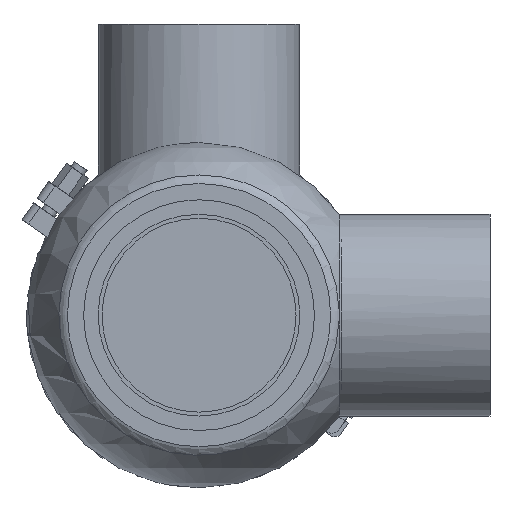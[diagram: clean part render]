
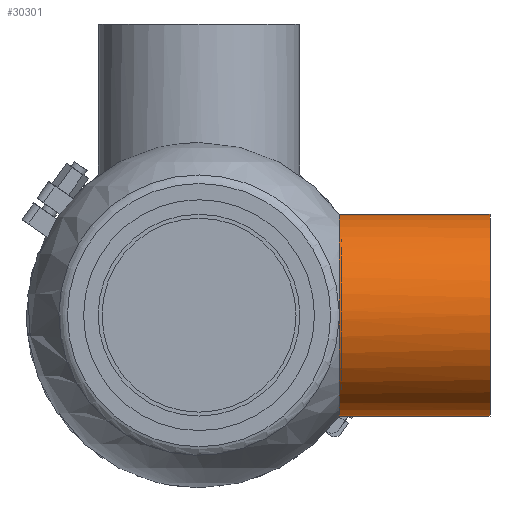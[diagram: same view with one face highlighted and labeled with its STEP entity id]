
A CAD part, front view. The second image highlights one B-rep face of the part: STEP entity #30301.
In plain terms, the highlighted cylindrical face has radius 52 mm (diameter 104 mm), a full revolution.
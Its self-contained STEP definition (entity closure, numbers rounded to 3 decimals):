
#85 = VERTEX_POINT ( 'NONE', #48638 ) ;
#1134 = CARTESIAN_POINT ( 'NONE',  ( 72.229, -51.947, 2.34 ) ) ;
#1993 = ORIENTED_EDGE ( 'NONE', *, *, #30370, .T. ) ;
#3137 = CARTESIAN_POINT ( 'NONE',  ( 0., 0., 0. ) ) ;
#3210 = AXIS2_PLACEMENT_3D ( 'NONE', #15583, #54357, #39506 ) ;
#3478 = CIRCLE ( 'NONE', #39130, 52. ) ;
#3721 = DIRECTION ( 'NONE',  ( 0., 0., 1. ) ) ;
#4185 = B_SPLINE_CURVE_WITH_KNOTS ( 'NONE', 3,
 ( #39233, #29628, #47596, #19382 ),
 .UNSPECIFIED., .F., .F.,
 ( 4, 4 ),
 ( 0.017, 0.02 ),
 .UNSPECIFIED. ) ;
#5110 = CARTESIAN_POINT ( 'NONE',  ( 72.229, -51.947, -2.34 ) ) ;
#8051 = CARTESIAN_POINT ( 'NONE',  ( 150., 0., 0. ) ) ;
#9339 = AXIS2_PLACEMENT_3D ( 'NONE', #3137, #31650, #50607 ) ;
#15583 = CARTESIAN_POINT ( 'NONE',  ( 72.229, 0., 0. ) ) ;
#16362 = ORIENTED_EDGE ( 'NONE', *, *, #59575, .T. ) ;
#17124 = CIRCLE ( 'NONE', #3210, 52. ) ;
#17599 = VERTEX_POINT ( 'NONE', #23575 ) ;
#19382 = CARTESIAN_POINT ( 'NONE',  ( 72.229, 51.971, 1.75 ) ) ;
#19794 = CARTESIAN_POINT ( 'NONE',  ( 72.229, -51.947, 2.34 ) ) ;
#20632 = DIRECTION ( 'NONE',  ( -1., 0., 0. ) ) ;
#21296 = VERTEX_POINT ( 'NONE', #19794 ) ;
#23575 = CARTESIAN_POINT ( 'NONE',  ( 72.229, 51.971, -1.75 ) ) ;
#23728 = VERTEX_POINT ( 'NONE', #46062 ) ;
#28302 = VERTEX_POINT ( 'NONE', #47193 ) ;
#28710 = CARTESIAN_POINT ( 'NONE',  ( 72.229, -52.017, 0.786 ) ) ;
#29628 = CARTESIAN_POINT ( 'NONE',  ( 72.257, 52.01, -0.579 ) ) ;
#30301 = ADVANCED_FACE ( 'NONE', ( #41277, #31353 ), #36568, .T. ) ;
#30370 = EDGE_CURVE ( 'NONE', #85, #21296, #41084, .T. ) ;
#31353 = FACE_OUTER_BOUND ( 'NONE', #48914, .T. ) ;
#31650 = DIRECTION ( 'NONE',  ( -1., 0., 0. ) ) ;
#33203 = ORIENTED_EDGE ( 'NONE', *, *, #45455, .T. ) ;
#34944 = EDGE_LOOP ( 'NONE', ( #1993, #33203, #16362, #56397 ) ) ;
#36568 = CYLINDRICAL_SURFACE ( 'NONE', #9339, 52. ) ;
#36881 = DIRECTION ( 'NONE',  ( 1., 0., 0. ) ) ;
#39130 = AXIS2_PLACEMENT_3D ( 'NONE', #8051, #20632, #3721 ) ;
#39233 = CARTESIAN_POINT ( 'NONE',  ( 72.229, 51.971, -1.75 ) ) ;
#39506 = DIRECTION ( 'NONE',  ( 0., 0., 1. ) ) ;
#40120 = ORIENTED_EDGE ( 'NONE', *, *, #42502, .T. ) ;
#41084 = CIRCLE ( 'NONE', #44085, 52. ) ;
#41277 = FACE_OUTER_BOUND ( 'NONE', #34944, .T. ) ;
#41855 = B_SPLINE_CURVE_WITH_KNOTS ( 'NONE', 3,
 ( #1134, #28710, #47614, #5110 ),
 .UNSPECIFIED., .F., .F.,
 ( 4, 4 ),
 ( 0.022, 0.026 ),
 .UNSPECIFIED. ) ;
#42502 = EDGE_CURVE ( 'NONE', #28302, #28302, #3478, .T. ) ;
#44019 = EDGE_CURVE ( 'NONE', #17599, #85, #4185, .T. ) ;
#44085 = AXIS2_PLACEMENT_3D ( 'NONE', #59569, #36881, #55829 ) ;
#45455 = EDGE_CURVE ( 'NONE', #21296, #23728, #41855, .T. ) ;
#46062 = CARTESIAN_POINT ( 'NONE',  ( 72.229, -51.947, -2.34 ) ) ;
#47193 = CARTESIAN_POINT ( 'NONE',  ( 150., 0., 52. ) ) ;
#47596 = CARTESIAN_POINT ( 'NONE',  ( 72.257, 52.01, 0.587 ) ) ;
#47614 = CARTESIAN_POINT ( 'NONE',  ( 72.229, -52.018, -0.773 ) ) ;
#48638 = CARTESIAN_POINT ( 'NONE',  ( 72.229, 51.971, 1.75 ) ) ;
#48914 = EDGE_LOOP ( 'NONE', ( #40120 ) ) ;
#50607 = DIRECTION ( 'NONE',  ( 0., 0., 1. ) ) ;
#54357 = DIRECTION ( 'NONE',  ( 1., 0., 0. ) ) ;
#55829 = DIRECTION ( 'NONE',  ( 0., 0., 1. ) ) ;
#56397 = ORIENTED_EDGE ( 'NONE', *, *, #44019, .T. ) ;
#59569 = CARTESIAN_POINT ( 'NONE',  ( 72.229, 0., 0. ) ) ;
#59575 = EDGE_CURVE ( 'NONE', #23728, #17599, #17124, .T. ) ;
